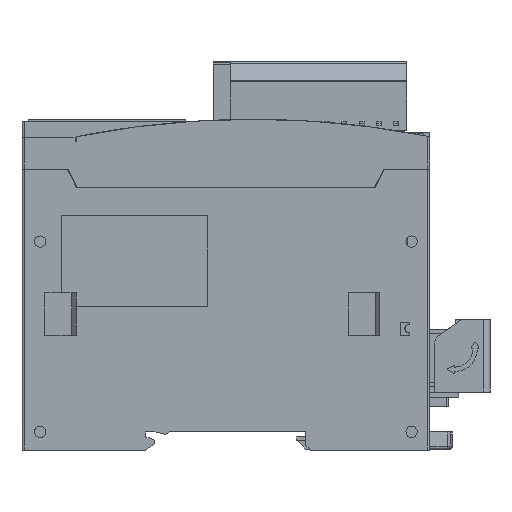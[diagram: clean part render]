
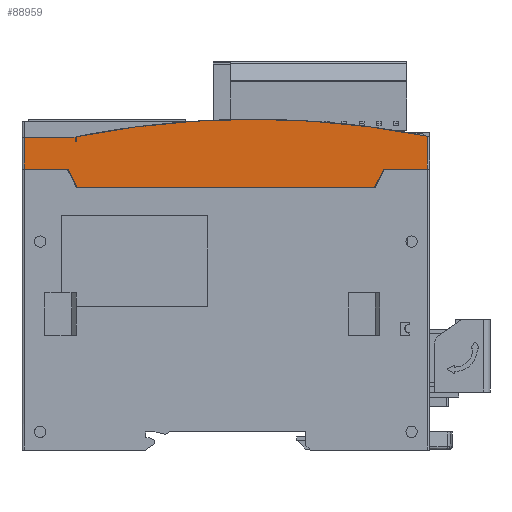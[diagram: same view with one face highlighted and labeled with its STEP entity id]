
A CAD part, left-side view. The second image highlights one B-rep face of the part: STEP entity #88959.
In plain terms, the highlighted planar face has unit normal (-1, 0, 0).
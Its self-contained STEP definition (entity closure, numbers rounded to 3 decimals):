
#362 = CARTESIAN_POINT ( 'NONE',  ( 0., 0.5, 15.084 ) ) ;
#907 = DIRECTION ( 'NONE',  ( 0., 0., 1. ) ) ;
#2857 = LINE ( 'NONE', #109949, #35607 ) ;
#4960 = DIRECTION ( 'NONE',  ( 0., 1., 0. ) ) ;
#4982 = CARTESIAN_POINT ( 'NONE',  ( 0., 45., 11.084 ) ) ;
#6640 = VERTEX_POINT ( 'NONE', #117194 ) ;
#7463 = AXIS2_PLACEMENT_3D ( 'NONE', #25342, #13107, #907 ) ;
#8110 = ORIENTED_EDGE ( 'NONE', *, *, #117201, .F. ) ;
#8811 = CARTESIAN_POINT ( 'NONE',  ( 0., 79.8, 15.084 ) ) ;
#9594 = CARTESIAN_POINT ( 'NONE',  ( 0., 78.3, 21.682 ) ) ;
#10412 = ORIENTED_EDGE ( 'NONE', *, *, #99582, .F. ) ;
#12373 = ORIENTED_EDGE ( 'NONE', *, *, #42008, .F. ) ;
#12519 = CIRCLE ( 'NONE', #7463, 200. ) ;
#12542 = CARTESIAN_POINT ( 'NONE',  ( 0., 89.5, 22.084 ) ) ;
#13107 = DIRECTION ( 'NONE',  ( -1., 0., 0. ) ) ;
#14261 = ORIENTED_EDGE ( 'NONE', *, *, #18649, .F. ) ;
#14947 = DIRECTION ( 'NONE',  ( 0., 0., 1. ) ) ;
#16700 = VECTOR ( 'NONE', #64226, 1000. ) ;
#16761 = VECTOR ( 'NONE', #18488, 1000. ) ;
#17195 = CARTESIAN_POINT ( 'NONE',  ( 0., 45., 15.084 ) ) ;
#17216 = LINE ( 'NONE', #4982, #56137 ) ;
#18488 = DIRECTION ( 'NONE',  ( 0., 0.447, -0.894 ) ) ;
#18649 = EDGE_CURVE ( 'NONE', #71868, #58680, #42953, .T. ) ;
#19513 = EDGE_CURVE ( 'NONE', #6640, #45442, #49608, .T. ) ;
#19654 = DIRECTION ( 'NONE',  ( 0., 0., 1. ) ) ;
#19672 = VERTEX_POINT ( 'NONE', #8811 ) ;
#20885 = VECTOR ( 'NONE', #14947, 1000. ) ;
#21819 = LINE ( 'NONE', #9594, #97381 ) ;
#25342 = CARTESIAN_POINT ( 'NONE',  ( 0., 39., -173.916 ) ) ;
#26816 = CARTESIAN_POINT ( 'NONE',  ( 0., 78.3, 22.084 ) ) ;
#27197 = CARTESIAN_POINT ( 'NONE',  ( 0., 89.5, 18.629 ) ) ;
#27773 = ORIENTED_EDGE ( 'NONE', *, *, #66042, .F. ) ;
#28971 = ORIENTED_EDGE ( 'NONE', *, *, #109927, .F. ) ;
#29447 = LINE ( 'NONE', #17195, #29909 ) ;
#29909 = VECTOR ( 'NONE', #4960, 1000. ) ;
#30720 = CARTESIAN_POINT ( 'NONE',  ( 0., 12.2, 11.084 ) ) ;
#31716 = LINE ( 'NONE', #111475, #90377 ) ;
#31872 = DIRECTION ( 'NONE',  ( -1., 0., 0. ) ) ;
#33076 = VERTEX_POINT ( 'NONE', #33167 ) ;
#33167 = CARTESIAN_POINT ( 'NONE',  ( 0., 78.3, 21.284 ) ) ;
#35607 = VECTOR ( 'NONE', #97714, 1000. ) ;
#35716 = CARTESIAN_POINT ( 'NONE',  ( 0., 77.8, 11.084 ) ) ;
#37302 = DIRECTION ( 'NONE',  ( 0., 0., 1. ) ) ;
#39433 = LINE ( 'NONE', #27197, #20885 ) ;
#42008 = EDGE_CURVE ( 'NONE', #105499, #71868, #88576, .T. ) ;
#42953 = LINE ( 'NONE', #30720, #16761 ) ;
#44116 = CARTESIAN_POINT ( 'NONE',  ( 0., 39., -173.916 ) ) ;
#44798 = EDGE_CURVE ( 'NONE', #105499, #6640, #61782, .T. ) ;
#45262 = CARTESIAN_POINT ( 'NONE',  ( 0., 12.2, 11.084 ) ) ;
#45442 = VERTEX_POINT ( 'NONE', #102638 ) ;
#47364 = CARTESIAN_POINT ( 'NONE',  ( 0., 10.2, 15.084 ) ) ;
#48588 = EDGE_CURVE ( 'NONE', #51644, #19672, #31716, .T. ) ;
#49102 = FACE_OUTER_BOUND ( 'NONE', #82064, .T. ) ;
#49536 = CARTESIAN_POINT ( 'NONE',  ( 0., 0.5, -12.079 ) ) ;
#49608 = CIRCLE ( 'NONE', #73520, 200. ) ;
#50736 = ORIENTED_EDGE ( 'NONE', *, *, #118604, .T. ) ;
#51644 = VERTEX_POINT ( 'NONE', #35716 ) ;
#53025 = EDGE_CURVE ( 'NONE', #87833, #103725, #2857, .T. ) ;
#56137 = VECTOR ( 'NONE', #112094, 1000. ) ;
#58680 = VERTEX_POINT ( 'NONE', #45262 ) ;
#59046 = DIRECTION ( 'NONE',  ( 0., 1., 0. ) ) ;
#60697 = ORIENTED_EDGE ( 'NONE', *, *, #48588, .F. ) ;
#61782 = LINE ( 'NONE', #49536, #63335 ) ;
#63335 = VECTOR ( 'NONE', #37302, 1000. ) ;
#64226 = DIRECTION ( 'NONE',  ( 0., 1., 0. ) ) ;
#64297 = CARTESIAN_POINT ( 'NONE',  ( 0., 89.5, 15.084 ) ) ;
#66042 = EDGE_CURVE ( 'NONE', #74775, #118095, #39433, .T. ) ;
#68993 = VECTOR ( 'NONE', #82302, 1000. ) ;
#71268 = DIRECTION ( 'NONE',  ( 1., 0., 0. ) ) ;
#71868 = VERTEX_POINT ( 'NONE', #47364 ) ;
#73520 = AXIS2_PLACEMENT_3D ( 'NONE', #44116, #31872, #19654 ) ;
#74775 = VERTEX_POINT ( 'NONE', #64297 ) ;
#76118 = DIRECTION ( 'NONE',  ( 0., -1., 0. ) ) ;
#76413 = CARTESIAN_POINT ( 'NONE',  ( 0., 45., 15.084 ) ) ;
#79887 = AXIS2_PLACEMENT_3D ( 'NONE', #83471, #71268, #59046 ) ;
#82064 = EDGE_LOOP ( 'NONE', ( #117529, #115168, #8110, #27773, #10412, #60697, #28971, #14261, #12373, #106011, #97428, #50736, #117479 ) ) ;
#82302 = DIRECTION ( 'NONE',  ( 0., -1., 0. ) ) ;
#83471 = CARTESIAN_POINT ( 'NONE',  ( 0., 0.5, 11.084 ) ) ;
#85124 = CARTESIAN_POINT ( 'NONE',  ( 0., 78., 22.245 ) ) ;
#85593 = VERTEX_POINT ( 'NONE', #26816 ) ;
#87367 = VECTOR ( 'NONE', #76118, 1000. ) ;
#87833 = VERTEX_POINT ( 'NONE', #117422 ) ;
#88272 = CARTESIAN_POINT ( 'NONE',  ( 0., 45., 22.084 ) ) ;
#88576 = LINE ( 'NONE', #76413, #16700 ) ;
#88959 = ADVANCED_FACE ( 'NONE', ( #49102 ), #98490, .F. ) ;
#90377 = VECTOR ( 'NONE', #99233, 1000. ) ;
#94478 = CARTESIAN_POINT ( 'NONE',  ( 0., 45., 21.284 ) ) ;
#97381 = VECTOR ( 'NONE', #116699, 1000. ) ;
#97428 = ORIENTED_EDGE ( 'NONE', *, *, #19513, .T. ) ;
#97714 = DIRECTION ( 'NONE',  ( 0., 0., 1. ) ) ;
#98490 = PLANE ( 'NONE',  #79887 ) ;
#99233 = DIRECTION ( 'NONE',  ( 0., 0.447, 0.894 ) ) ;
#99582 = EDGE_CURVE ( 'NONE', #19672, #74775, #29447, .T. ) ;
#100476 = LINE ( 'NONE', #88272, #87367 ) ;
#102638 = CARTESIAN_POINT ( 'NONE',  ( 0., 39., 26.084 ) ) ;
#103725 = VERTEX_POINT ( 'NONE', #85124 ) ;
#105499 = VERTEX_POINT ( 'NONE', #362 ) ;
#106011 = ORIENTED_EDGE ( 'NONE', *, *, #44798, .T. ) ;
#106685 = LINE ( 'NONE', #94478, #68993 ) ;
#108334 = EDGE_CURVE ( 'NONE', #33076, #85593, #21819, .T. ) ;
#109927 = EDGE_CURVE ( 'NONE', #58680, #51644, #17216, .T. ) ;
#109949 = CARTESIAN_POINT ( 'NONE',  ( 0., 78., 18.629 ) ) ;
#111051 = EDGE_CURVE ( 'NONE', #33076, #87833, #106685, .T. ) ;
#111475 = CARTESIAN_POINT ( 'NONE',  ( 0., 79.8, 15.084 ) ) ;
#112094 = DIRECTION ( 'NONE',  ( 0., 1., 0. ) ) ;
#115168 = ORIENTED_EDGE ( 'NONE', *, *, #108334, .T. ) ;
#116699 = DIRECTION ( 'NONE',  ( 0., 0., 1. ) ) ;
#117194 = CARTESIAN_POINT ( 'NONE',  ( 0., 0.5, 22.343 ) ) ;
#117201 = EDGE_CURVE ( 'NONE', #118095, #85593, #100476, .T. ) ;
#117422 = CARTESIAN_POINT ( 'NONE',  ( 0., 78., 21.284 ) ) ;
#117479 = ORIENTED_EDGE ( 'NONE', *, *, #53025, .F. ) ;
#117529 = ORIENTED_EDGE ( 'NONE', *, *, #111051, .F. ) ;
#118095 = VERTEX_POINT ( 'NONE', #12542 ) ;
#118604 = EDGE_CURVE ( 'NONE', #45442, #103725, #12519, .T. ) ;
